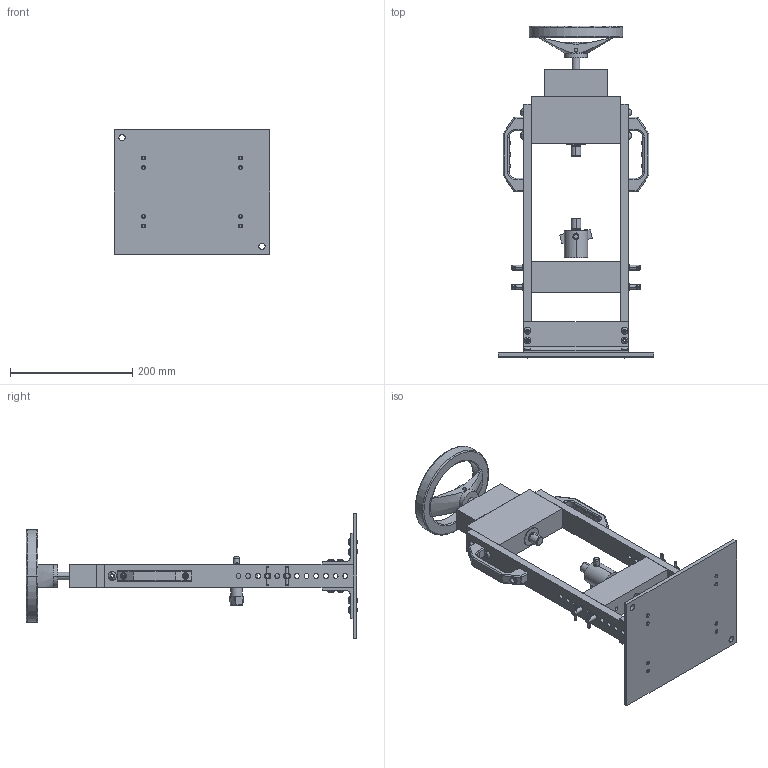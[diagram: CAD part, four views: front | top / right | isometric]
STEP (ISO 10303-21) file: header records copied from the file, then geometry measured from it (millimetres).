
FILE_DESCRIPTION (( 'STEP AP203' ), '1' );
FILE_NAME ('IFVF-1K.STEP', '2021-02-10T15:59:22', ( '' ), ( '' ), 'SwSTEP 2.0', 'SolidWorks 2019', '' );
FILE_SCHEMA (( 'CONFIG_CONTROL_DESIGN' ));
Length unit declared in the file: inch
Products named in the file (1): IFVF-1K
Bounding box: 254 x 542.53 x 203.2 mm (x, y, z)
Surface area: 422937.8 mm2 (no closed solid volume)
Topology: 0 solids, 79 shells, 755 faces, 2180 edges, 1433 vertices
Faces by surface type: cylinder 262, plane 259, cone 85, bspline 66, sphere 56, torus 27
Entity records: 43788 total; most frequent: CARTESIAN_POINT 29015, ORIENTED_EDGE 3597, EDGE_CURVE 2120, B_SPLINE_CURVE_WITH_KNOTS 2068, VERTEX_POINT 1433, DIRECTION 1380, EDGE_LOOP 940, ADVANCED_FACE 755
